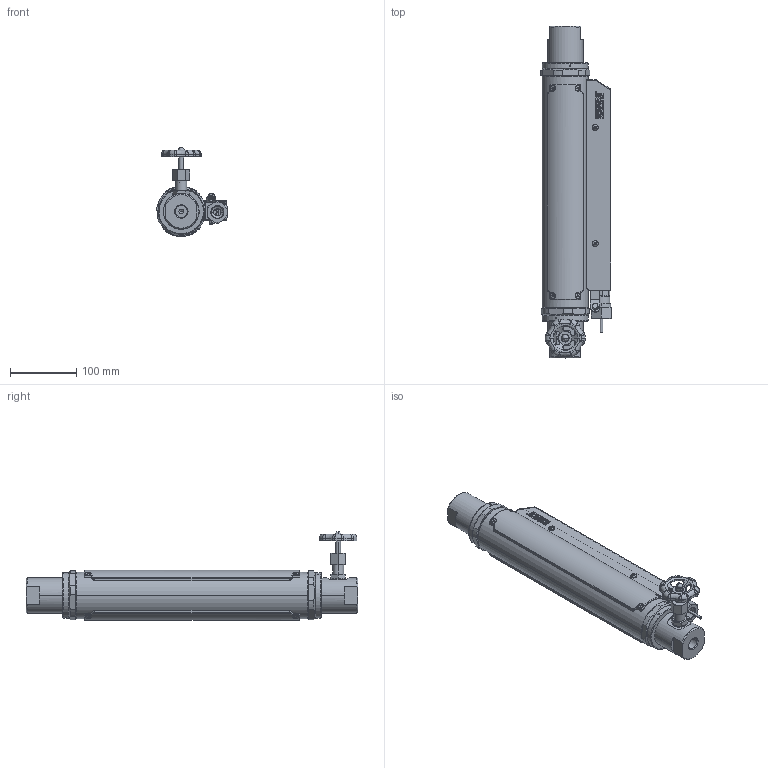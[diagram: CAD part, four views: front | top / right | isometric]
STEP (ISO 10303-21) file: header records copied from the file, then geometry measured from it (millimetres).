
FILE_DESCRIPTION (( 'STEP AP203' ), '1' );
FILE_NAME ('1614-KC-2-AA-1-1.STEP', '2022-12-29T16:10:55', ( '' ), ( '' ), 'SwSTEP 2.0', 'SolidWorks 2020', '' );
FILE_SCHEMA (( 'CONFIG_CONTROL_DESIGN' ));
Products named in the file (1): 1614-KC-2-AA-1-1
Bounding box: 106.37 x 500 x 133.94 mm (x, y, z)
Volume: 1447780.5 mm3; surface area: 493642.7 mm2
Topology: 71 solids, 71 shells, 4391 faces, 11821 edges, 7647 vertices
Faces by surface type: plane 2744, cylinder 863, bspline 391, cone 319, torus 50, sphere 24
Entity records: 156761 total; most frequent: CARTESIAN_POINT 49859, ORIENTED_EDGE 23558, DIRECTION 20027, EDGE_CURVE 11779, VECTOR 8267, LINE 8267, VERTEX_POINT 7639, AXIS2_PLACEMENT_3D 5880
